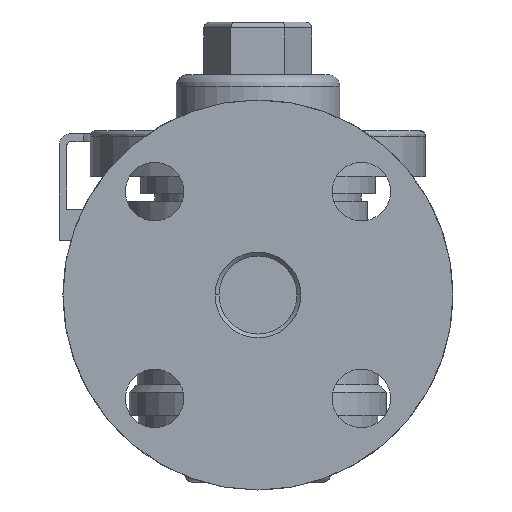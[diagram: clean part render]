
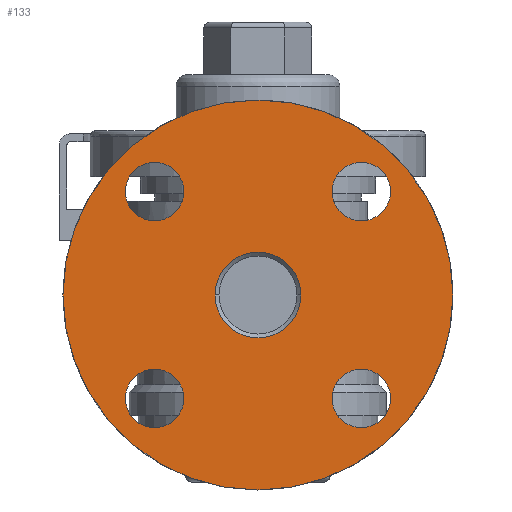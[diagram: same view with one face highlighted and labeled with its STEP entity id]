
A CAD part, left-side view. The second image highlights one B-rep face of the part: STEP entity #133.
In plain terms, the highlighted planar face has unit normal (-1, 0, 0).
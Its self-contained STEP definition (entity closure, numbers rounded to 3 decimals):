
#133=ADVANCED_FACE('',(#814,#815,#816,#817,#818,#819),#813,.F.);
#813=PLANE('',#1984);
#814=FACE_OUTER_BOUND('',#1985,.T.);
#815=FACE_BOUND('',#1986,.T.);
#816=FACE_BOUND('',#1987,.T.);
#817=FACE_BOUND('',#1988,.T.);
#818=FACE_BOUND('',#1989,.T.);
#819=FACE_BOUND('',#1990,.T.);
#1981=CARTESIAN_POINT('',(-80.,-60.,-96.603));
#1982=DIRECTION('',(1.,0.,0.));
#1983=DIRECTION('',(0.,1.,0.));
#1984=AXIS2_PLACEMENT_3D('',#1981,#1982,#1983);
#1985=EDGE_LOOP('',(#3105,#3106));
#1986=EDGE_LOOP('',(#3107,#3108));
#1987=EDGE_LOOP('',(#3109,#3110));
#1988=EDGE_LOOP('',(#3111,#3112));
#1989=EDGE_LOOP('',(#3113,#3114));
#1990=EDGE_LOOP('',(#3115,#3116));
#3105=ORIENTED_EDGE('',*,*,#3729,.T.);
#3106=ORIENTED_EDGE('',*,*,#3730,.T.);
#3107=ORIENTED_EDGE('',*,*,#3731,.F.);
#3108=ORIENTED_EDGE('',*,*,#3732,.F.);
#3109=ORIENTED_EDGE('',*,*,#3733,.F.);
#3110=ORIENTED_EDGE('',*,*,#3734,.F.);
#3111=ORIENTED_EDGE('',*,*,#3735,.F.);
#3112=ORIENTED_EDGE('',*,*,#3736,.F.);
#3113=ORIENTED_EDGE('',*,*,#3737,.F.);
#3114=ORIENTED_EDGE('',*,*,#3738,.F.);
#3115=ORIENTED_EDGE('',*,*,#3739,.F.);
#3116=ORIENTED_EDGE('',*,*,#3740,.F.);
#3729=EDGE_CURVE('',#5138,#5139,#5140,.T.);
#3730=EDGE_CURVE('',#5139,#5138,#5146,.T.);
#3731=EDGE_CURVE('',#5152,#5153,#5154,.T.);
#3732=EDGE_CURVE('',#5153,#5152,#5160,.T.);
#3733=EDGE_CURVE('',#5166,#5167,#5168,.T.);
#3734=EDGE_CURVE('',#5167,#5166,#5174,.T.);
#3735=EDGE_CURVE('',#5180,#5181,#5182,.T.);
#3736=EDGE_CURVE('',#5181,#5180,#5188,.T.);
#3737=EDGE_CURVE('',#5194,#5195,#5196,.T.);
#3738=EDGE_CURVE('',#5195,#5194,#5202,.T.);
#3739=EDGE_CURVE('',#5208,#5209,#5210,.T.);
#3740=EDGE_CURVE('',#5209,#5208,#5216,.T.);
#5138=VERTEX_POINT('',#7071);
#5139=VERTEX_POINT('',#7072);
#5140=CIRCLE('',#7076,50.);
#5146=CIRCLE('',#7080,50.);
#5152=VERTEX_POINT('',#7081);
#5153=VERTEX_POINT('',#7082);
#5154=CIRCLE('',#7086,7.5);
#5160=CIRCLE('',#7090,7.5);
#5166=VERTEX_POINT('',#7091);
#5167=VERTEX_POINT('',#7092);
#5168=CIRCLE('',#7096,7.5);
#5174=CIRCLE('',#7100,7.5);
#5180=VERTEX_POINT('',#7101);
#5181=VERTEX_POINT('',#7102);
#5182=CIRCLE('',#7106,7.5);
#5188=CIRCLE('',#7110,7.5);
#5194=VERTEX_POINT('',#7111);
#5195=VERTEX_POINT('',#7112);
#5196=CIRCLE('',#7116,7.5);
#5202=CIRCLE('',#7120,7.5);
#5208=VERTEX_POINT('',#7121);
#5209=VERTEX_POINT('',#7122);
#5210=CIRCLE('',#7126,11.);
#5216=CIRCLE('',#7130,11.);
#7071=CARTESIAN_POINT('',(-80.,-50.,0.));
#7072=CARTESIAN_POINT('',(-80.,50.,0.));
#7073=CARTESIAN_POINT('',(-80.,0.,0.));
#7074=DIRECTION('',(-1.,0.,0.));
#7075=DIRECTION('',(0.,-1.,0.));
#7076=AXIS2_PLACEMENT_3D('',#7073,#7074,#7075);
#7077=CARTESIAN_POINT('',(-80.,0.,0.));
#7078=DIRECTION('',(-1.,0.,0.));
#7079=DIRECTION('',(0.,-1.,0.));
#7080=AXIS2_PLACEMENT_3D('',#7077,#7078,#7079);
#7081=CARTESIAN_POINT('',(-80.,-19.017,-26.517));
#7082=CARTESIAN_POINT('',(-80.,-34.017,-26.517));
#7083=CARTESIAN_POINT('',(-80.,-26.517,-26.517));
#7084=DIRECTION('',(-1.,0.,0.));
#7085=DIRECTION('',(0.,-1.,0.));
#7086=AXIS2_PLACEMENT_3D('',#7083,#7084,#7085);
#7087=CARTESIAN_POINT('',(-80.,-26.517,-26.517));
#7088=DIRECTION('',(-1.,0.,0.));
#7089=DIRECTION('',(0.,-1.,0.));
#7090=AXIS2_PLACEMENT_3D('',#7087,#7088,#7089);
#7091=CARTESIAN_POINT('',(-80.,-19.017,26.517));
#7092=CARTESIAN_POINT('',(-80.,-34.017,26.517));
#7093=CARTESIAN_POINT('',(-80.,-26.517,26.517));
#7094=DIRECTION('',(-1.,0.,0.));
#7095=DIRECTION('',(0.,-1.,0.));
#7096=AXIS2_PLACEMENT_3D('',#7093,#7094,#7095);
#7097=CARTESIAN_POINT('',(-80.,-26.517,26.517));
#7098=DIRECTION('',(-1.,0.,0.));
#7099=DIRECTION('',(0.,-1.,0.));
#7100=AXIS2_PLACEMENT_3D('',#7097,#7098,#7099);
#7101=CARTESIAN_POINT('',(-80.,34.017,26.517));
#7102=CARTESIAN_POINT('',(-80.,19.017,26.517));
#7103=CARTESIAN_POINT('',(-80.,26.517,26.517));
#7104=DIRECTION('',(-1.,0.,0.));
#7105=DIRECTION('',(0.,-1.,0.));
#7106=AXIS2_PLACEMENT_3D('',#7103,#7104,#7105);
#7107=CARTESIAN_POINT('',(-80.,26.517,26.517));
#7108=DIRECTION('',(-1.,0.,0.));
#7109=DIRECTION('',(0.,-1.,0.));
#7110=AXIS2_PLACEMENT_3D('',#7107,#7108,#7109);
#7111=CARTESIAN_POINT('',(-80.,34.017,-26.517));
#7112=CARTESIAN_POINT('',(-80.,19.017,-26.517));
#7113=CARTESIAN_POINT('',(-80.,26.517,-26.517));
#7114=DIRECTION('',(-1.,0.,0.));
#7115=DIRECTION('',(0.,-1.,0.));
#7116=AXIS2_PLACEMENT_3D('',#7113,#7114,#7115);
#7117=CARTESIAN_POINT('',(-80.,26.517,-26.517));
#7118=DIRECTION('',(-1.,0.,0.));
#7119=DIRECTION('',(0.,-1.,0.));
#7120=AXIS2_PLACEMENT_3D('',#7117,#7118,#7119);
#7121=CARTESIAN_POINT('',(-80.,0.,-11.));
#7122=CARTESIAN_POINT('',(-80.,0.,11.));
#7123=CARTESIAN_POINT('',(-80.,0.,0.));
#7124=DIRECTION('',(-1.,0.,0.));
#7125=DIRECTION('',(0.,0.,1.));
#7126=AXIS2_PLACEMENT_3D('',#7123,#7124,#7125);
#7127=CARTESIAN_POINT('',(-80.,0.,0.));
#7128=DIRECTION('',(-1.,0.,0.));
#7129=DIRECTION('',(0.,0.,1.));
#7130=AXIS2_PLACEMENT_3D('',#7127,#7128,#7129);
